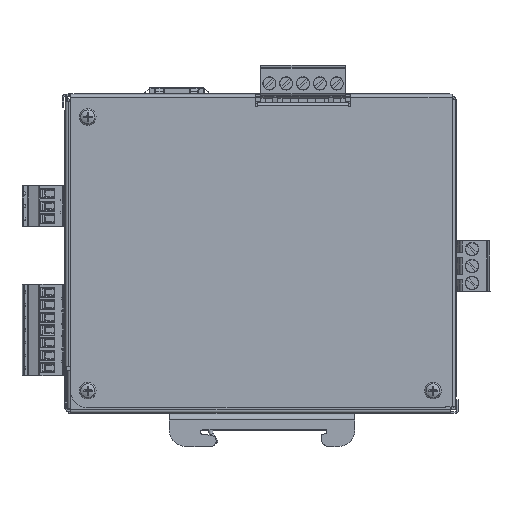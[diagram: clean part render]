
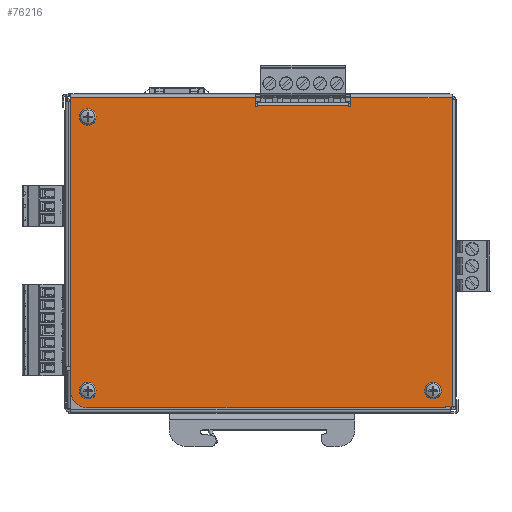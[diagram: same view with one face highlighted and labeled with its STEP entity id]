
A CAD part, top view. The second image highlights one B-rep face of the part: STEP entity #76216.
In plain terms, the highlighted planar face has unit normal (0, 0, 1).
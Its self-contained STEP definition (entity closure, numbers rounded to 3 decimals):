
#3900=FACE_BOUND('',#10289,.T.);
#3901=FACE_BOUND('',#10290,.T.);
#3902=FACE_BOUND('',#10291,.T.);
#6414=FACE_OUTER_BOUND('',#10288,.T.);
#10288=EDGE_LOOP('',(#62356,#62357,#62358,#62359,#62360,#62361,#62362,#62363,
#62364,#62365,#62366,#62367,#62368,#62369,#62370));
#10289=EDGE_LOOP('',(#62371));
#10290=EDGE_LOOP('',(#62372));
#10291=EDGE_LOOP('',(#62373));
#12961=CIRCLE('',#81358,0.5);
#12984=CIRCLE('',#81407,5.2);
#13045=CIRCLE('',#81537,0.25);
#13046=CIRCLE('',#81539,0.25);
#13047=CIRCLE('',#81540,2.5);
#13048=CIRCLE('',#81541,2.5);
#13049=CIRCLE('',#81542,2.5);
#18481=LINE('',#120497,#26241);
#18557=LINE('',#120707,#26317);
#18559=LINE('',#120713,#26319);
#18563=LINE('',#120725,#26323);
#18592=LINE('',#120802,#26352);
#18602=LINE('',#120837,#26362);
#18723=LINE('',#121197,#26483);
#18726=LINE('',#121204,#26486);
#18731=LINE('',#121214,#26491);
#18736=LINE('',#121232,#26496);
#18737=LINE('',#121233,#26497);
#26241=VECTOR('',#95652,10.);
#26317=VECTOR('',#95866,10.);
#26319=VECTOR('',#95870,10.);
#26323=VECTOR('',#95888,10.);
#26352=VECTOR('',#95971,10.);
#26362=VECTOR('',#96009,10.);
#26483=VECTOR('',#96380,10.);
#26486=VECTOR('',#96387,10.);
#26491=VECTOR('',#96394,10.);
#26496=VECTOR('',#96413,10.);
#26497=VECTOR('',#96414,10.);
#33730=VERTEX_POINT('',#120446);
#33746=VERTEX_POINT('',#120495);
#33807=VERTEX_POINT('',#120696);
#33811=VERTEX_POINT('',#120705);
#33812=VERTEX_POINT('',#120709);
#33814=VERTEX_POINT('',#120712);
#33834=VERTEX_POINT('',#120798);
#33836=VERTEX_POINT('',#120801);
#33847=VERTEX_POINT('',#120834);
#33961=VERTEX_POINT('',#121195);
#33962=VERTEX_POINT('',#121200);
#33967=VERTEX_POINT('',#121212);
#33971=VERTEX_POINT('',#121225);
#33972=VERTEX_POINT('',#121229);
#33973=VERTEX_POINT('',#121230);
#33974=VERTEX_POINT('',#121234);
#33975=VERTEX_POINT('',#121236);
#33976=VERTEX_POINT('',#121238);
#44565=EDGE_CURVE('',#33730,#33746,#18481,.T.);
#44671=EDGE_CURVE('',#33807,#33811,#18557,.T.);
#44673=EDGE_CURVE('',#33814,#33812,#18559,.T.);
#44676=EDGE_CURVE('',#33807,#33812,#12961,.T.);
#44681=EDGE_CURVE('',#33811,#33730,#18563,.T.);
#44720=EDGE_CURVE('',#33836,#33834,#18592,.T.);
#44738=EDGE_CURVE('',#33847,#33814,#18602,.T.);
#44740=EDGE_CURVE('',#33847,#33834,#12984,.T.);
#44918=EDGE_CURVE('',#33746,#33961,#18723,.T.);
#44922=EDGE_CURVE('',#33962,#33836,#18726,.T.);
#44927=EDGE_CURVE('',#33961,#33967,#18731,.T.);
#44934=EDGE_CURVE('',#33967,#33971,#13045,.T.);
#44935=EDGE_CURVE('',#33972,#33973,#13046,.T.);
#44936=EDGE_CURVE('',#33973,#33962,#18736,.T.);
#44937=EDGE_CURVE('',#33971,#33972,#18737,.T.);
#44938=EDGE_CURVE('',#33974,#33974,#13047,.T.);
#44939=EDGE_CURVE('',#33975,#33975,#13048,.T.);
#44940=EDGE_CURVE('',#33976,#33976,#13049,.T.);
#62356=ORIENTED_EDGE('',*,*,#44935,.T.);
#62357=ORIENTED_EDGE('',*,*,#44936,.T.);
#62358=ORIENTED_EDGE('',*,*,#44922,.T.);
#62359=ORIENTED_EDGE('',*,*,#44720,.T.);
#62360=ORIENTED_EDGE('',*,*,#44740,.F.);
#62361=ORIENTED_EDGE('',*,*,#44738,.T.);
#62362=ORIENTED_EDGE('',*,*,#44673,.T.);
#62363=ORIENTED_EDGE('',*,*,#44676,.F.);
#62364=ORIENTED_EDGE('',*,*,#44671,.T.);
#62365=ORIENTED_EDGE('',*,*,#44681,.T.);
#62366=ORIENTED_EDGE('',*,*,#44565,.T.);
#62367=ORIENTED_EDGE('',*,*,#44918,.T.);
#62368=ORIENTED_EDGE('',*,*,#44927,.T.);
#62369=ORIENTED_EDGE('',*,*,#44934,.T.);
#62370=ORIENTED_EDGE('',*,*,#44937,.T.);
#62371=ORIENTED_EDGE('',*,*,#44938,.T.);
#62372=ORIENTED_EDGE('',*,*,#44939,.T.);
#62373=ORIENTED_EDGE('',*,*,#44940,.T.);
#70211=PLANE('',#81538);
#76216=ADVANCED_FACE('',(#6414,#3900,#3901,#3902),#70211,.F.);
#81358=AXIS2_PLACEMENT_3D('',#120718,#95875,#95876);
#81407=AXIS2_PLACEMENT_3D('',#120840,#96014,#96015);
#81537=AXIS2_PLACEMENT_3D('',#121227,#96407,#96408);
#81538=AXIS2_PLACEMENT_3D('',#121228,#96409,#96410);
#81539=AXIS2_PLACEMENT_3D('',#121231,#96411,#96412);
#81540=AXIS2_PLACEMENT_3D('',#121235,#96415,#96416);
#81541=AXIS2_PLACEMENT_3D('',#121237,#96417,#96418);
#81542=AXIS2_PLACEMENT_3D('',#121239,#96419,#96420);
#95652=DIRECTION('',(0.,1.,0.));
#95866=DIRECTION('',(1.,0.,0.));
#95870=DIRECTION('',(0.707,0.707,0.));
#95875=DIRECTION('center_axis',(0.,0.,
1.));
#95876=DIRECTION('ref_axis',(-0.383,0.924,0.));
#95888=DIRECTION('',(0.,1.,0.));
#95971=DIRECTION('',(0.,-1.,0.));
#96009=DIRECTION('',(1.,0.,0.));
#96014=DIRECTION('center_axis',(0.,0.,
-1.));
#96015=DIRECTION('ref_axis',(-0.707,-0.707,0.));
#96380=DIRECTION('',(-1.,0.,0.));
#96387=DIRECTION('',(-1.,0.,0.));
#96394=DIRECTION('',(0.,-1.,0.));
#96407=DIRECTION('center_axis',(0.,0.,
-1.));
#96408=DIRECTION('ref_axis',(-1.,0.,0.));
#96409=DIRECTION('center_axis',(0.,0.,
-1.));
#96410=DIRECTION('ref_axis',(1.,0.,0.));
#96411=DIRECTION('center_axis',(0.,0.,
-1.));
#96412=DIRECTION('ref_axis',(1.,0.,0.));
#96413=DIRECTION('',(0.,1.,0.));
#96414=DIRECTION('',(-1.,0.,0.));
#96415=DIRECTION('center_axis',(0.,0.,
-1.));
#96416=DIRECTION('ref_axis',(0.,1.,0.));
#96417=DIRECTION('center_axis',(0.,0.,
-1.));
#96418=DIRECTION('ref_axis',(0.,1.,0.));
#96419=DIRECTION('center_axis',(0.,0.,
-1.));
#96420=DIRECTION('ref_axis',(0.,1.,0.));
#120446=CARTESIAN_POINT('',(58.6,47.55,31.));
#120495=CARTESIAN_POINT('',(58.6,48.1,31.));
#120497=CARTESIAN_POINT('',(58.6,25.35,31.));
#120696=CARTESIAN_POINT('',(56.807,-45.025,31.));
#120705=CARTESIAN_POINT('',(58.6,-45.025,31.));
#120707=CARTESIAN_POINT('',(28.475,-45.025,31.));
#120709=CARTESIAN_POINT('',(56.454,-45.171,31.));
#120712=CARTESIAN_POINT('',(56.225,-45.4,31.));
#120713=CARTESIAN_POINT('',(54.006,-47.619,31.));
#120718=CARTESIAN_POINT('Origin',(56.807,-45.525,31.));
#120725=CARTESIAN_POINT('',(58.6,25.35,31.));
#120798=CARTESIAN_POINT('',(-56.4,-40.2,31.));
#120801=CARTESIAN_POINT('',(-56.4,48.1,31.));
#120802=CARTESIAN_POINT('',(-56.4,25.35,31.));
#120834=CARTESIAN_POINT('',(-51.2,-45.4,31.));
#120837=CARTESIAN_POINT('',(-29.275,-45.4,31.));
#120840=CARTESIAN_POINT('Origin',(-51.2,-40.2,31.));
#121195=CARTESIAN_POINT('',(27.906,48.1,31.));
#121197=CARTESIAN_POINT('',(-29.275,48.1,31.));
#121200=CARTESIAN_POINT('',(-0.594,48.1,31.));
#121204=CARTESIAN_POINT('',(-29.275,48.1,31.));
#121212=CARTESIAN_POINT('',(27.906,45.6,31.));
#121214=CARTESIAN_POINT('',(27.906,25.35,31.));
#121225=CARTESIAN_POINT('',(27.406,45.6,31.));
#121227=CARTESIAN_POINT('Origin',(27.656,45.6,31.));
#121228=CARTESIAN_POINT('Origin',(0.35,1.6,31.));
#121229=CARTESIAN_POINT('',(-0.094,45.6,31.));
#121230=CARTESIAN_POINT('',(-0.594,45.6,31.));
#121231=CARTESIAN_POINT('Origin',(-0.344,45.6,31.));
#121232=CARTESIAN_POINT('',(-0.594,25.35,31.));
#121233=CARTESIAN_POINT('',(0.128,45.6,31.));
#121234=CARTESIAN_POINT('',(52.8,-42.7,31.));
#121235=CARTESIAN_POINT('Origin',(52.8,-40.2,31.));
#121236=CARTESIAN_POINT('',(-51.2,39.8,31.));
#121237=CARTESIAN_POINT('Origin',(-51.2,42.3,31.));
#121238=CARTESIAN_POINT('',(-51.2,-42.7,31.));
#121239=CARTESIAN_POINT('Origin',(-51.2,-40.2,31.));
